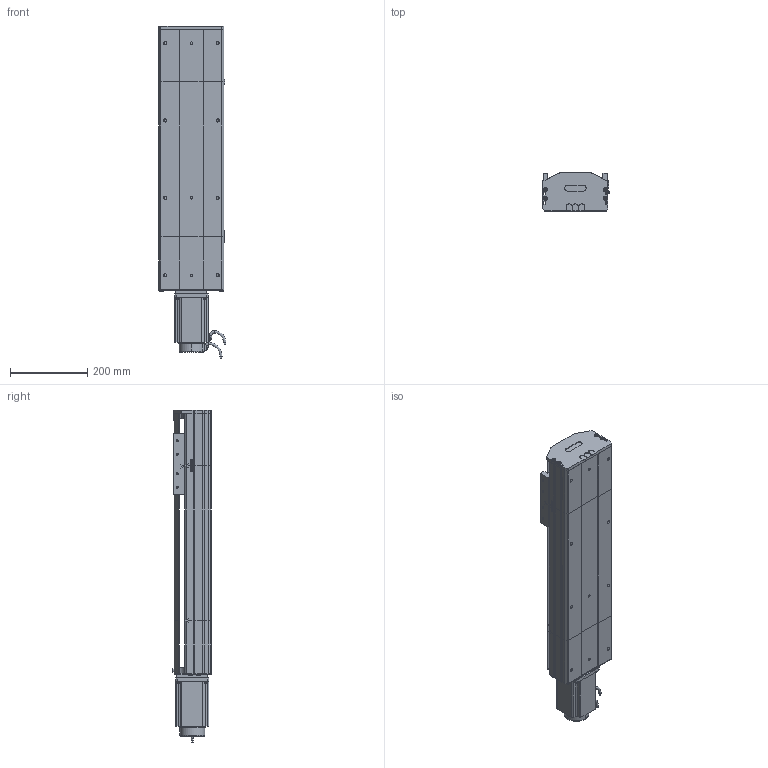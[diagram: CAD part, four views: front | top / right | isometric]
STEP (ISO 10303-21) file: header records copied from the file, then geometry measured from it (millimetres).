
FILE_DESCRIPTION (( 'STEP AP214' ), '1' );
FILE_NAME ('D17 TSH MD S400.STEP', '2010-06-29T14:49:09', ( 'Christophe Gaillard' ), ( 'SGA' ), 'SwSTEP 2.0', 'SolidWorks 2010', '' );
FILE_SCHEMA (( 'AUTOMOTIVE_DESIGN' ));
Length unit declared in the file: millimetre
Products named in the file (31): Arbre+rail head D17; tete d''axe haut D17; tete d''axe bas D17; plaque de  bout tail D17_Default; vis M5 L25_Default; vis M5 L8 90°_Default; couvercle D17 course L400_Default; corpl tail D17_Default; Arbre+rail tail D17; couvercle D17_Default; Tail D17_Default; couvercle D17 head_Default; corpl head D17 MD_Default; head MD_Default; corp D17 400_Default; plaque de  bout head D17_Default; arbre + rail D17 Course 400 ; course 400 D17_Default; avant 90BLDC125A-640; vis M5 L5_Default; Conecteur2_Default; Moteur motionking 90BLDC125A-640; Chariot D17; guide D17; chariot D17S_Default; Vis M5 L16-2_Default; Conecteur_Default; codeur 90BLDC125-640; corps 90BLDC125A-640; vis M5 L12_Default; D17 TSH MD S400
Assembly tree (50 placements, depth 4):
  D17 TSH MD S400
    chariot D17S_Default
      guide D17  x2
      vis M5 L12_Default  x4
      Chariot D17
    Tail D17_Default
      tete d''axe haut D17
      tete d''axe bas D17
      vis M5 L8 90°_Default  x2
      couvercle D17_Default
      Arbre+rail tail D17
      vis M5 L12_Default  x4
      plaque de  bout tail D17_Default
      corpl tail D17_Default
      vis M5 L25_Default  x2
    course 400 D17_Default
      couvercle D17 course L400_Default
      arbre + rail D17 Course 400 
      corp D17 400_Default
    head MD_Default
      couvercle D17 head_Default
      vis M5 L12_Default  x6
      Vis M5 L16-2_Default  x4
      Arbre+rail head D17
      Moteur motionking 90BLDC125A-640
        corps 90BLDC125A-640
        avant 90BLDC125A-640
        Conecteur2_Default
        Conecteur_Default
        codeur 90BLDC125-640
      vis M5 L5_Default  x2
      plaque de  bout head D17_Default
      corpl head D17 MD_Default
Bounding box: 174.95 x 99.7 x 857.5 mm (x, y, z)
Volume: 5255119.7 mm3; surface area: 1287819.2 mm2
Topology: 75 solids, 75 shells, 2080 faces, 5243 edges, 3400 vertices
Faces by surface type: plane 1319, cylinder 512, bspline 136, torus 57, cone 56
Entity records: 69469 total; most frequent: CARTESIAN_POINT 22110, ORIENTED_EDGE 8302, DIRECTION 7688, EDGE_CURVE 4151, VECTOR 2940, LINE 2940, VERTEX_POINT 2736, AXIS2_PLACEMENT_3D 2374
